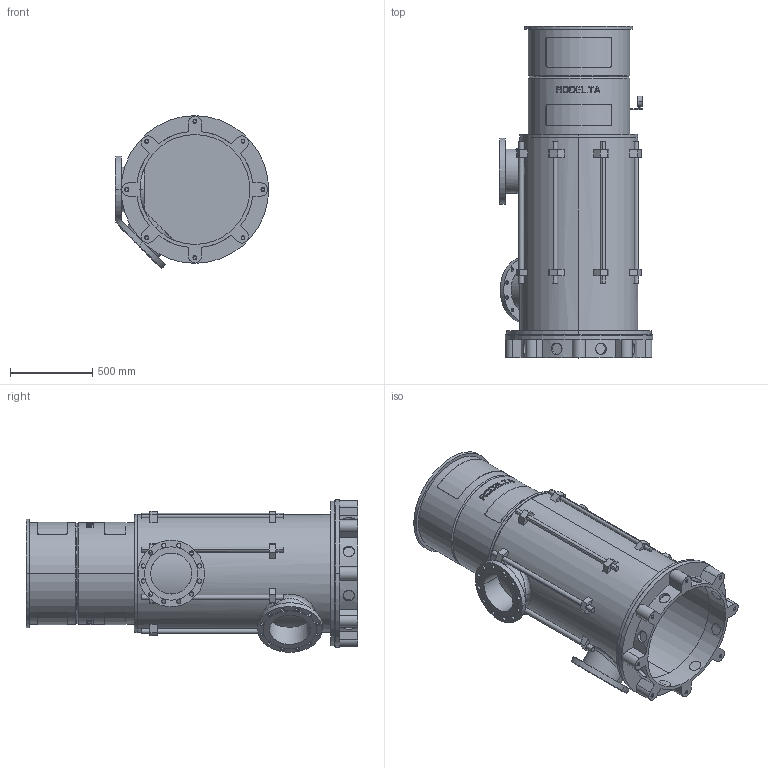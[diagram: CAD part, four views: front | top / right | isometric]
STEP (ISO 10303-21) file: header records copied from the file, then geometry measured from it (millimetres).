
FILE_DESCRIPTION((''),'2;1');
FILE_NAME('LS10_2TR_0GR_P_PN16','2025-10-20T12:03:36',('Lyritlocal'),(''),'CREO PARAMETRIC BY PTC INC, 2022014','CREO PARAMETRIC BY PTC INC, 2022014','');
FILE_SCHEMA(('CONFIG_CONTROL_DESIGN'));
Length unit declared in the file: millimetre
Products named in the file (1): LS10_2TR_0GR_P_PN16
Bounding box: 935 x 2023 x 930.48 mm (x, y, z)
Volume: 90073938.2 mm3; surface area: 12354677.7 mm2
Topology: 3 solids, 11 shells, 752 faces, 1934 edges, 1288 vertices
Faces by surface type: plane 462, cylinder 274, cone 12, bspline 4
Entity records: 24399 total; most frequent: CARTESIAN_POINT 6053, ORIENTED_EDGE 3836, DIRECTION 3662, EDGE_CURVE 1934, AXIS2_PLACEMENT_3D 1381, VERTEX_POINT 1288, EDGE_LOOP 924, VECTOR 900
